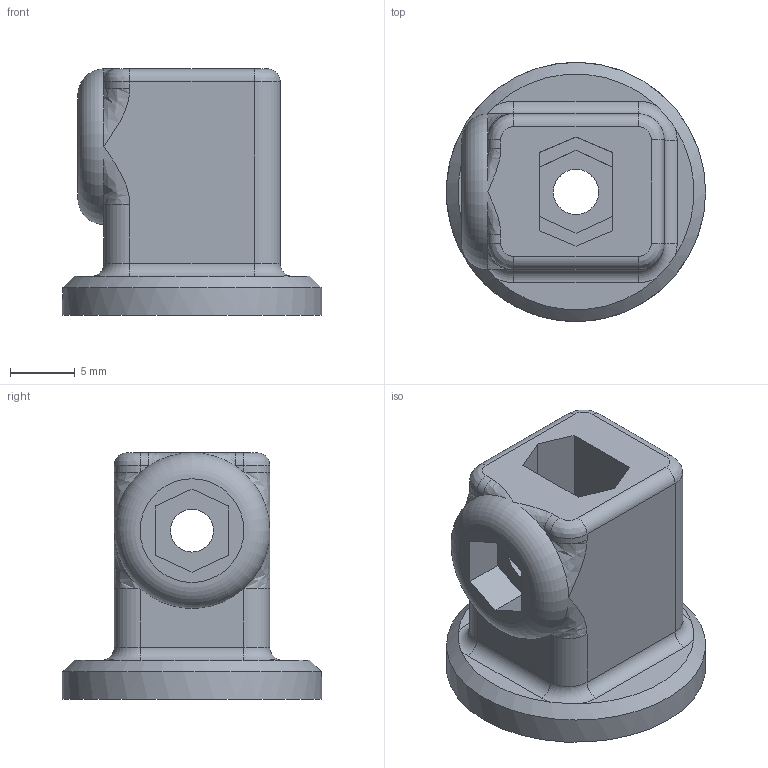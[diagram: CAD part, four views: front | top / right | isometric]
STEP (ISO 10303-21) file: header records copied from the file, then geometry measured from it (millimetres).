
FILE_DESCRIPTION(/* description */ (''),/* implementation_level */ '2;1');
FILE_NAME(/* name */ 'D:\3D печать\Мои проекты\Archy MK 2\STEP\MK3\крепление ответного винта для концевика V2.stp',/* time_stamp */ '2019-07-18T21:42:27+06:00',/* author */ ('Пользователь'),/* organization */ (''),/* preprocessor_version */ 'ST-DEVELOPER v16.5',/* originating_system */ 'Autodesk Inventor 2017',/* authorisation */ '');
FILE_SCHEMA (('AUTOMOTIVE_DESIGN { 1 0 10303 214 3 1 1 }'));
Length unit declared in the file: millimetre
Products named in the file (1): крепление \X2\043E0442043204350442
043D043E0433043E\X0\ винта для 
концевика V2
Bounding box: 20 x 20 x 19 mm (x, y, z)
Volume: 2955.4 mm3; surface area: 2023 mm2
Topology: 1 solids, 1 shells, 68 faces, 171 edges, 101 vertices
Faces by surface type: plane 33, cylinder 19, bspline 10, torus 5, cone 1
Full cylindrical faces by diameter (mm): 3.3 x2, 3.5 x1, 20 x1
Entity records: 2264 total; most frequent: CARTESIAN_POINT 671, DIRECTION 330, ORIENTED_EDGE 316, EDGE_CURVE 158, AXIS2_PLACEMENT_3D 123, VERTEX_POINT 100, LINE 84, VECTOR 84
